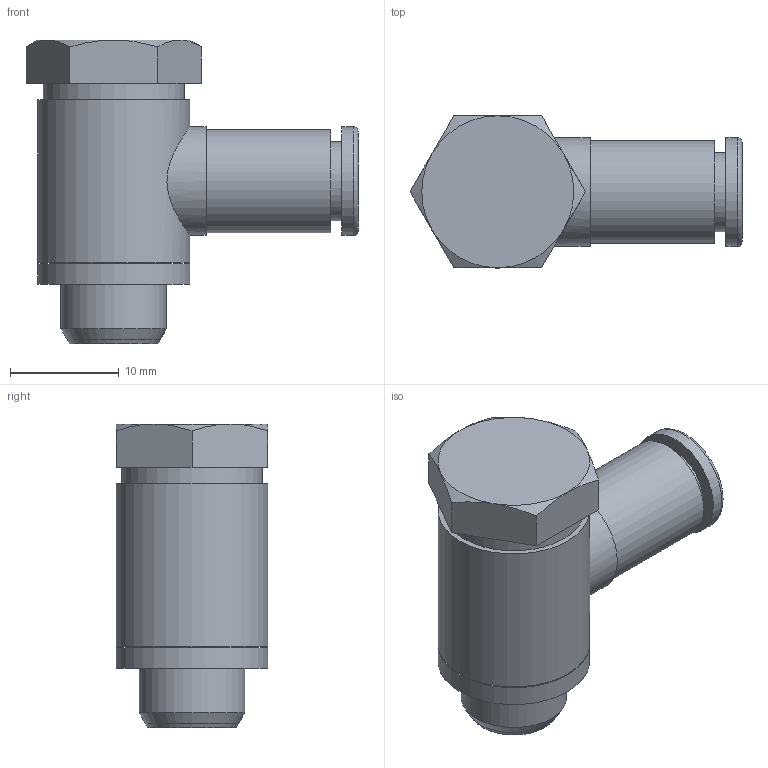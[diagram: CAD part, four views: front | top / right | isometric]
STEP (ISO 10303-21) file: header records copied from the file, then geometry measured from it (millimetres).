
FILE_DESCRIPTION(('Bauteilbeschreibung','HiCAD-Model','HiCAD-STEP-TRANSLATION','Bauteilbeschreibung'),'2;1');
FILE_NAME('B:/ABGLEICH/ZEICHNUNGEN/STEP FÜR INTERNET/STEP/S11204_IPSO_017_5_1-8.STP','2011-08-26T14:21:45+00:00',('Konstrukteur'),('Konstrukteur Firma GmbH'),' HiCAD neXt 2008, Step 3.1.1401.2J ','HiCAD neXt 2008','confidential');
FILE_SCHEMA(('AUTOMOTIVE_DESIGN { 1 2 10303 214 0 1 1 1 }'));
Length unit declared in the file: millimetre
Products named in the file (8): S11204_IPSO_017_5_1_8; A00032; A4102; A41020; G 1_8; A00042_DTG__1_8_UNV ; DR5_1; R201204
Assembly tree (7 placements, depth 3):
  S11204_IPSO_017_5_1_8
    A00032
    A4102
    A41020
      G 1_8
    A00042_DTG__1_8_UNV 
    DR5_1
    R201204
Bounding box: 30.58 x 14 x 28 mm (x, y, z)
Volume: 3632.6 mm3; surface area: 5008.6 mm2
Topology: 6 solids, 6 shells, 94 faces, 198 edges, 125 vertices
Faces by surface type: plane 36, cylinder 33, cone 21, torus 4
Full cylindrical faces by diameter (mm): 3.5 x3, 5 x1, 5.1 x1, 5.2 x1, 5.5 x1, 6 x1, 7.3 x1, 7.5 x1, 7.9 x1, 8.566 x2, 9.5 x1, 9.7 x1, 9.728 x2, 9.9 x2, 10 x3, 10.2 x1, 10.6 x1, 13 x1, 14 x2
Entity records: 6950 total; most frequent: CARTESIAN_POINT 4347, DIRECTION 418, ORIENTED_EDGE 262, AXIS2_PLACEMENT_3D 197, EDGE_LOOP 168, COLOUR_RGB 131, EDGE_CURVE 131, PRESENTATION_STYLE_ASSIGNMENT 131
